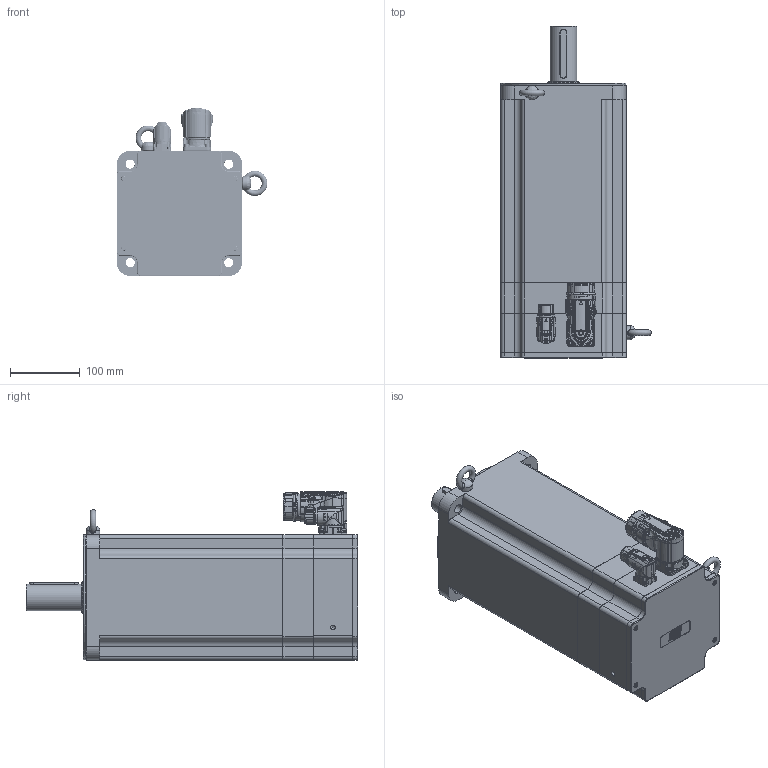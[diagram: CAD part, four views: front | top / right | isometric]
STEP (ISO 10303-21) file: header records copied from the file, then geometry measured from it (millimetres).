
FILE_DESCRIPTION(/* description */ ('Unknown'),/* implementation_level */ '2;1');
FILE_NAME(/* name */ 'TC4-180.7F.X X.X.3.XX.1.X.G3.00.00 Q0B809',/* time_stamp */ '2026-03-10T15:07:57+01:00',/* author */ ('Unknown'),/* organization */ ('Unknown'),/* preprocessor_version */ 'ST-DEVELOPER v19.4',/* originating_system */ 'Solid Edge',/* authorisation */ 'Unknown');
FILE_SCHEMA (('AUTOMOTIVE_DESIGN {1 0 10303 214 3 1 1}'));
Products named in the file (17): Q0B809 7F FRENO VUOTO; 005256003057; 003103040231; 005911000205; 003155002231; Coperchio campana TC4-180; 005113001040; 003003200016; 005119001104; 005911000185; 005911000479; 003120003175; 005321000010; 005911000180; 003251040631; 007117000452; 007117000454
Assembly tree (33 placements, depth 2):
  Q0B809 7F FRENO VUOTO
    005256003057
    003103040231
    005911000205  x4
    003155002231
    Coperchio campana TC4-180
    005113001040
    003003200016
    005119001104
    005911000185  x4
    005911000479  x8
    003120003175
    005321000010  x2
    005911000180  x4
    003251040631
    007117000452
    007117000454
Bounding box: 215.99 x 476 x 241.45 mm (x, y, z)
Volume: 4737661.8 mm3; surface area: 1022602.4 mm2
Topology: 34 solids, 61 shells, 3632 faces, 9359 edges, 5899 vertices
Faces by surface type: plane 1298, cylinder 876, bspline 636, cone 375, torus 313, sphere 134
Full cylindrical faces by diameter (mm): 0.5 x1, 1 x17, 1.2 x17, 2 x4, 2.013 x8, 2.5 x4, 3 x5, 3.242 x16, 3.6 x5, 4 x12, 4.134 x16, 4.2 x8, 4.5 x9, 4.7 x4, 4.917 x6, 5 x8, 5.4 x1, 5.5 x9, 5.9 x1, 6.647 x14, 7 x10, 8 x11, 9 x4, 10 x5, 10.106 x2, 14 x4, 15.2 x1, 17.4 x2, 18 x1, 20 x3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
Entity records: 159854 total; most frequent: CARTESIAN_POINT 63671, ORIENTED_EDGE 15720, DIRECTION 14172, EDGE_CURVE 8068, AXIS2_PLACEMENT_3D 5541, VERTEX_POINT 5402, FACE_BOUND 4227, EDGE_LOOP 4198
